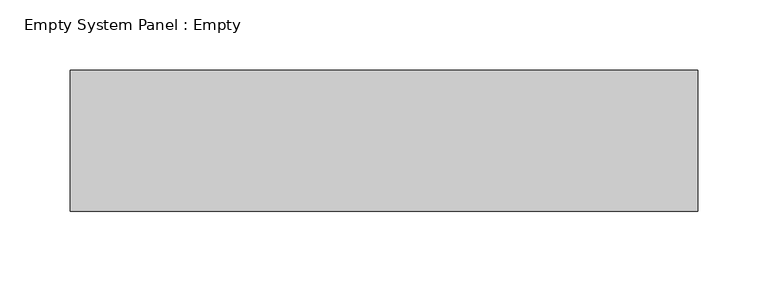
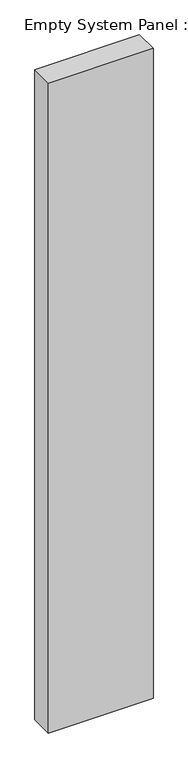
"""IFC4 building model written with IfcOpenShell, lengths in millimetres: plate geometry, Empty System Panel : Empty."""

from ifc_helpers import new_model, si_unit, origin, origin_with_axes, place, context, project, spatial, polyline, outline, extrude, source, transform, mapped, element, save


def empty_system_panel_empty_c7db59ba(model_context):
    return source(origin(), model_context, "Body", "SweptSolid", [
        extrude(outline(polyline([(222.5, -50.0), (-222.5, -50.0), (-222.5, 50.0), (222.5, 50.0), (222.5, -50.0)])), origin_with_axes(), (0.0, 0.0, 1.0), 2925.0),
    ])


if __name__ == "__main__":
    model = new_model("IFC4")
    model_context = context("Model", 3, world=origin())
    ifc_project = project(units=[si_unit("LENGTHUNIT", "METRE", prefix="MILLI")], contexts=[model_context])
    site = spatial("IfcSite", under=ifc_project)
    building = spatial("IfcBuilding", under=site)
    placement = place(None, origin())
    empty_system_panel_empty_shape = empty_system_panel_empty_c7db59ba(model_context)
    element("IfcPlate", 1, ObjectType="Empty System Panel : Empty", at=placement, inside=building, context=model_context, shape_type="MappedRepresentation", body=[
        mapped(empty_system_panel_empty_shape, transform((0.0, 0.0, 0.0), x_axis=(1.0, 0.0, 0.0), y_axis=(0.0, 1.0, 0.0), z_axis=(0.0, 0.0, 1.0))),
    ])
    save(model, "model.ifc")
